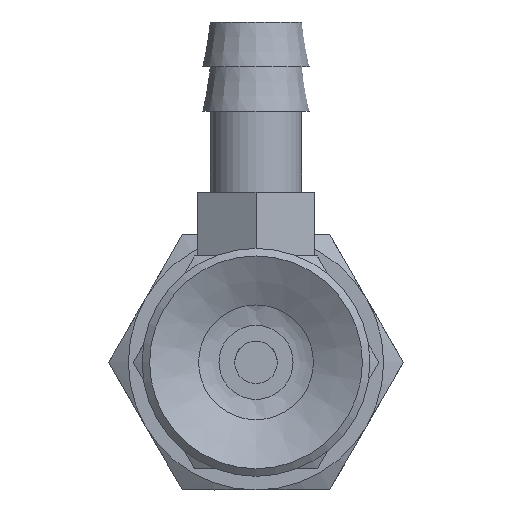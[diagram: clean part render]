
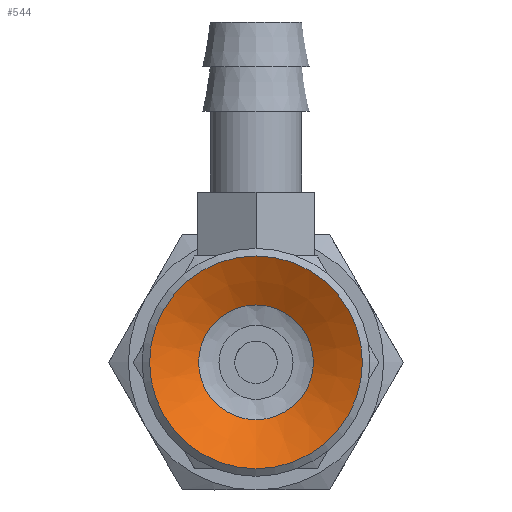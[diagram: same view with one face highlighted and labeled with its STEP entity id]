
A CAD part, front view. The second image highlights one B-rep face of the part: STEP entity #544.
In plain terms, the highlighted conical face has half-angle 61.39 degrees and reference radius 2.25 mm.
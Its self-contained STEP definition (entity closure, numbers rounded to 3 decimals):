
#544=ADVANCED_FACE('',(#798,#799),#800,.F.);
#798=FACE_BOUND('',#1115,.T.);
#799=FACE_OUTER_BOUND('',#1116,.T.);
#800=CONICAL_SURFACE('',#1117,2.25,1.071);
#1115=EDGE_LOOP('',(#1835));
#1116=EDGE_LOOP('',(#1836));
#1117=AXIS2_PLACEMENT_3D('',#1837,#1838,#1839);
#1835=ORIENTED_EDGE('',*,*,#2191,.T.);
#1836=ORIENTED_EDGE('',*,*,#2192,.T.);
#1837=CARTESIAN_POINT('',(0.0,1.5,0.0));
#1838=DIRECTION('',(-0.0,-1.0,0.));
#1839=DIRECTION('',(0.0,0.,-1.0));
#2191=EDGE_CURVE('',#2509,#2509,#2510,.T.);
#2192=EDGE_CURVE('',#2511,#2511,#2512,.T.);
#2509=VERTEX_POINT('',#3253);
#2510=CIRCLE('',#3254,2.698);
#2511=VERTEX_POINT('',#3255);
#2512=CIRCLE('',#3256,5.);
#3253=CARTESIAN_POINT('',(0.0,1.256,-2.698));
#3254=AXIS2_PLACEMENT_3D('',#3597,#3598,#3599);
#3255=CARTESIAN_POINT('',(0.0,0.,-5.));
#3256=AXIS2_PLACEMENT_3D('',#3600,#3601,#3602);
#3597=CARTESIAN_POINT('',(0.0,1.256,0.0));
#3598=DIRECTION('',(0.0,1.0,0.));
#3599=DIRECTION('',(0.0,0.,-1.0));
#3600=CARTESIAN_POINT('',(0.0,0.0,0.0));
#3601=DIRECTION('',(0.0,-1.0,0.));
#3602=DIRECTION('',(0.0,0.,-1.0));
